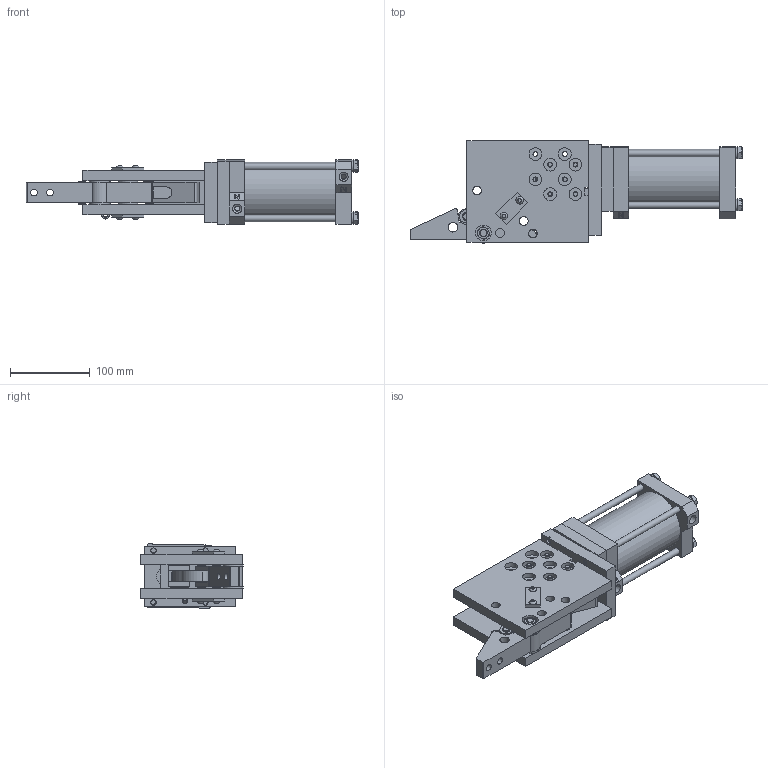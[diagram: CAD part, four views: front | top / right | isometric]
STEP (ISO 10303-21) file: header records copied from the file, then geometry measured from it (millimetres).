
FILE_DESCRIPTION(/* description */ ('SIDE PLATE-RH'),/* implementation_level */ '2;1');
FILE_NAME(/* name */ 'C:\Users\rcarver.WELKER\Desktop\CMX08V04A00.stp',/* time_stamp */ '2016-05-03T13:56:39-04:00',/* author */ ('rcarver'),/* organization */ (''),/* preprocessor_version */ 'ST-DEVELOPER v15.2',/* originating_system */ 'Autodesk Inventor 2014',/* authorisation */ '');
FILE_SCHEMA (('CONFIG_CONTROL_DESIGN'));
Products named in the file (42): CMXE01-RH; CMXE01-LH; CMXE03LT; CMXE05; CMXE06; CMXE07; CMXE19; 0.500X1.500XHH-.250; 0.375-16 HEXJAMNUT; CJ08E10-4; 1 OD X .500 ID X .03; M5X0.8-12 BHCS; C-31ST-PA; CMXE04; NUT; NYLON; 94645A205; 0.438-20X1.750 FLATPOINT; M8X1.25-20 SHCS; CMXE22; CMXE13; CMXE15-05; CMXE17; WCW-2169E01-50; NL8; MC0750X1000-125N; TSR-075BN70; CMXE02; DB4E16; UBS40E01N; UBS40E08; S01303E04; MOR-2.0X016.0bn70; TSP-332BN70; MA1500x2.75DIA; 0.625ID-SAE; 0.625-18 HEXNUT; UBS40E02-50; UBS40E03N; MOR-3.0X064.0bn70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
Bounding box: 415.91 x 128.01 x 80.66 mm (x, y, z)
Volume: 1382686.2 mm3; surface area: 457036.7 mm2
Topology: 72 solids, 72 shells, 1075 faces, 2314 edges, 1504 vertices
Faces by surface type: plane 517, cylinder 376, cone 160, torus 16, bspline 6
Full cylindrical faces by diameter (mm): 4.134 x4, 5 x4, 5.076 x1, 5.188 x4, 5.2 x4, 6 x14, 6.045 x16, 6.401 x2, 6.538 x1, 6.647 x16, 6.782 x4, 7.01 x6, 7.798 x1, 7.925 x9, 7.938 x4, 8 x19, 8.026 x20, 8.376 x2, 8.5 x4, 8.7 x4, 8.731 x8, 9 x4, 9.5 x4, 9.525 x2, 9.728 x3, 10.917 x8, 11.112 x1, 11.43 x4, 11.445 x2, 12 x1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
Entity records: 21443 total; most frequent: CARTESIAN_POINT 4478, DIRECTION 3574, ORIENTED_EDGE 2626, AXIS2_PLACEMENT_3D 1535, EDGE_LOOP 1328, EDGE_CURVE 1313, VERTEX_POINT 1017, ADVANCED_FACE 754
